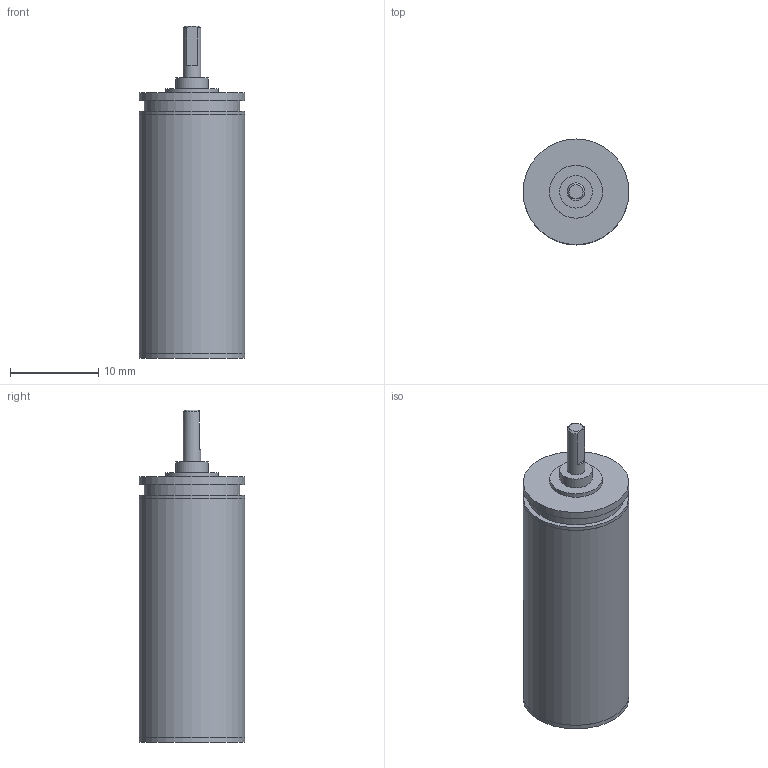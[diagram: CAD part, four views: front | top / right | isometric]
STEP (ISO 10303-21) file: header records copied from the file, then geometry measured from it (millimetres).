
FILE_DESCRIPTION(/* description */ (''),/* implementation_level */ '2;1');
FILE_NAME(/* name */ '12-3_10.stp',/* time_stamp */ '2016-08-24T10:13:35+02:00',/* author */ ('DR. FRITZ FAULHABER GmbH & Co. KG'),/* organization */ ('DR. FRITZ FAULHABER GmbH & Co. KG'),/* preprocessor_version */ 'ST-DEVELOPER v16',/* originating_system */ 'SIEMENS PLM Software NX 10.0',/* authorisation */ '');
FILE_SCHEMA (('AUTOMOTIVE_DESIGN { 1 0 10303 214 3 1 1 1 }'));
Length unit declared in the file: millimetre
Products named in the file (1): H00000573_A
Bounding box: 12 x 12 x 37.7 mm (x, y, z)
Volume: 3353.6 mm3; surface area: 1523.1 mm2
Topology: 1 solids, 1 shells, 32 faces, 52 edges, 34 vertices
Faces by surface type: plane 16, cylinder 14, cone 2
Full cylindrical faces by diameter (mm): 2 x1, 2.48 x1, 2.6 x1, 3.7 x1, 5 x1, 6 x2, 10.88 x1, 11.99 x2, 12 x4
Entity records: 692 total; most frequent: DIRECTION 129, CARTESIAN_POINT 115, ORIENTED_EDGE 70, AXIS2_PLACEMENT_3D 63, EDGE_LOOP 59, FACE_BOUND 54, EDGE_CURVE 35, ADVANCED_FACE 32
